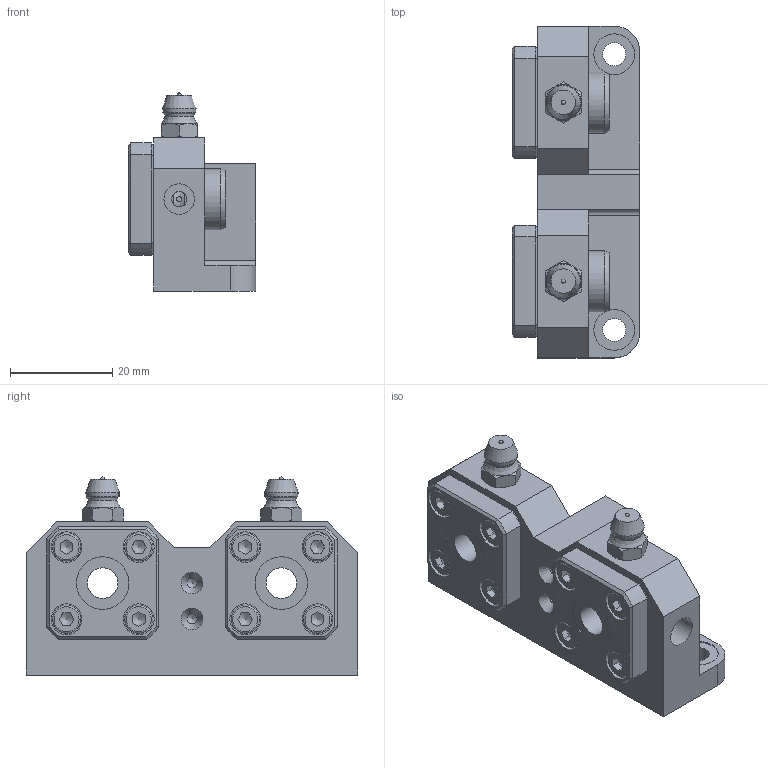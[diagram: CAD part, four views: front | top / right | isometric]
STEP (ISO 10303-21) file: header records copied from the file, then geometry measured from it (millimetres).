
FILE_DESCRIPTION((''),'2;1');
FILE_NAME('D:\製品 (図面)\カタログ用3D\リニアベアリング関連\STEP形式\LUF\LUF6.stp','2010-07-29T14:23:36',('Tsuchiya'),(''),'Autodesk Inventor 10','Autodesk Inventor 10','');
FILE_SCHEMA(('AUTOMOTIVE_DESIGN { 1 0 10303 214 1 1 1 1 }'));
Length unit declared in the file: millimetre
Products named in the file (4): LUF6; LUF61; LUF62; LUF63
Assembly tree (3 placements, depth 2):
  LUF6
    LUF61
    LUF62
    LUF63
Bounding box: 25 x 65 x 38.8 mm (x, y, z)
Volume: 26905.8 mm3; surface area: 15928.2 mm2
Topology: 13 solids, 13 shells, 342 faces, 750 edges, 470 vertices
Faces by surface type: plane 156, cylinder 78, cone 64, bspline 32, torus 8, sphere 4
Full cylindrical faces by diameter (mm): 2 x2, 3 x15, 3.5 x8, 4.5 x1, 5.5 x8, 6 x14, 8 x1, 10.3 x4, 12 x5
Entity records: 10029 total; most frequent: CARTESIAN_POINT 3349, DIRECTION 1316, ORIENTED_EDGE 1184, EDGE_CURVE 592, EDGE_LOOP 558, AXIS2_PLACEMENT_3D 555, VERTEX_POINT 440, FACE_OUTER_BOUND 342
